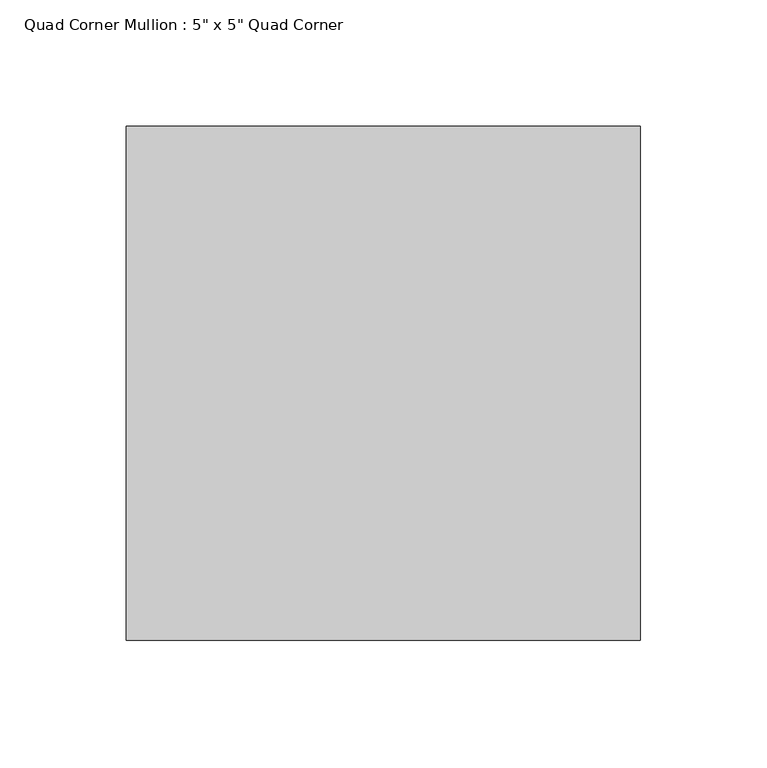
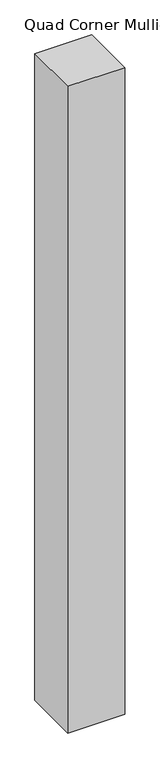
"""IFC4 building model written with IfcOpenShell, lengths in millimetres: member geometry."""

from ifc_helpers import new_model, si_unit, frame, origin, place, context, project, spatial, polyline, outline, extrude, source, transform, mapped, element, save


def member_a9b10072(model_context):
    return source(origin(), model_context, "Body", "SweptSolid", [
        extrude(outline(polyline([(133.35, -69.85), (-69.85, -69.85), (-69.85, 133.35), (133.35, 133.35), (133.35, -69.85)])), frame((0.0, 0.0, -2438.4), z_axis=(0.0, 0.0, 1.0), x_axis=(1.0, 0.0, 0.0)), (0.0, 0.0, 1.0), 2438.4),
    ])


if __name__ == "__main__":
    model = new_model("IFC4")
    model_context = context("Model", 3, world=origin())
    ifc_project = project(units=[si_unit("LENGTHUNIT", "METRE", prefix="MILLI")], contexts=[model_context])
    site = spatial("IfcSite", under=ifc_project)
    building = spatial("IfcBuilding", under=site)
    placement = place(None, origin())
    member_shape = member_a9b10072(model_context)
    element("IfcMember", 1, ObjectType="Quad Corner Mullion : 5\" x 5\" Quad Corner", at=placement, inside=building, context=model_context, shape_type="MappedRepresentation", body=[
        mapped(member_shape, transform((0.0, 0.0, 0.0), x_axis=(1.0, 0.0, 0.0), y_axis=(0.0, 1.0, 0.0), z_axis=(0.0, 0.0, 1.0))),
    ])
    save(model, "model.ifc")
